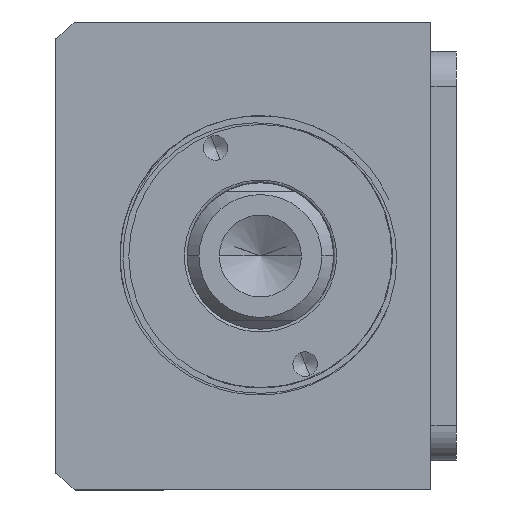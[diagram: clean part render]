
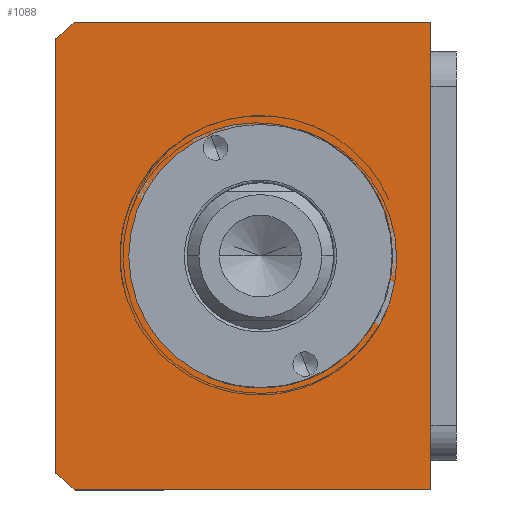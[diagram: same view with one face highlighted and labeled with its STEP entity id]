
A CAD part, front view. The second image highlights one B-rep face of the part: STEP entity #1088.
In plain terms, the highlighted planar face has unit normal (0, -1, 0) as drawn and (0, 0, 1) by its records, which use the part's own axes.
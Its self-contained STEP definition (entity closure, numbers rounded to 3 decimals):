
#100 = ORIENTED_EDGE ( 'NONE', *, *, #1274, .T. ) ;
#149 = ORIENTED_EDGE ( 'NONE', *, *, #7560, .T. ) ;
#208 = FACE_OUTER_BOUND ( 'NONE', #1423, .T. ) ;
#254 = ORIENTED_EDGE ( 'NONE', *, *, #5810, .F. ) ;
#356 = CIRCLE ( 'NONE', #5731, 51. ) ;
#456 = LINE ( 'NONE', #8473, #2397 ) ;
#470 = VERTEX_POINT ( 'NONE', #8999 ) ;
#863 = EDGE_CURVE ( 'NONE', #3849, #7347, #8869, .T. ) ;
#1031 = ORIENTED_EDGE ( 'NONE', *, *, #6985, .T. ) ;
#1088 = ADVANCED_FACE ( 'NONE', ( #6266, #208 ), #5209, .T. ) ;
#1274 = EDGE_CURVE ( 'NONE', #8259, #3849, #1374, .T. ) ;
#1374 = LINE ( 'NONE', #3772, #9920 ) ;
#1423 = EDGE_LOOP ( 'NONE', ( #149, #4144, #3433, #1031, #100, #4323 ) ) ;
#1499 = CARTESIAN_POINT ( 'NONE',  ( 0., 3., 155. ) ) ;
#1762 = CARTESIAN_POINT ( 'NONE',  ( -40., 32., 155. ) ) ;
#2235 = AXIS2_PLACEMENT_3D ( 'NONE', #4149, #2437, #9247 ) ;
#2266 = CARTESIAN_POINT ( 'NONE',  ( -22.5, 3., 155. ) ) ;
#2336 = DIRECTION ( 'NONE',  ( 1., 0., 0. ) ) ;
#2397 = VECTOR ( 'NONE', #7663, 1000. ) ;
#2437 = DIRECTION ( 'NONE',  ( 0., 0., 1. ) ) ;
#2564 = CARTESIAN_POINT ( 'NONE',  ( 0., 3., 155. ) ) ;
#2960 = AXIS2_PLACEMENT_3D ( 'NONE', #4860, #10668, #5698 ) ;
#3376 = DIRECTION ( 'NONE',  ( 1., 0., 0. ) ) ;
#3433 = ORIENTED_EDGE ( 'NONE', *, *, #10010, .T. ) ;
#3611 = CARTESIAN_POINT ( 'NONE',  ( -40., 32., 155. ) ) ;
#3717 = ORIENTED_EDGE ( 'NONE', *, *, #7791, .F. ) ;
#3772 = CARTESIAN_POINT ( 'NONE',  ( 40., 32., 155. ) ) ;
#3849 = VERTEX_POINT ( 'NONE', #9558 ) ;
#3871 = CARTESIAN_POINT ( 'NONE',  ( 0., 3., 155. ) ) ;
#4144 = ORIENTED_EDGE ( 'NONE', *, *, #7980, .T. ) ;
#4149 = CARTESIAN_POINT ( 'NONE',  ( 0., 0., 155. ) ) ;
#4323 = ORIENTED_EDGE ( 'NONE', *, *, #863, .T. ) ;
#4364 = DIRECTION ( 'NONE',  ( 0., 1., 0. ) ) ;
#4692 = DIRECTION ( 'NONE',  ( 1., 0., 0. ) ) ;
#4860 = CARTESIAN_POINT ( 'NONE',  ( 0., 3., 155. ) ) ;
#4890 = CARTESIAN_POINT ( 'NONE',  ( -40., -28.639, 155. ) ) ;
#5044 = AXIS2_PLACEMENT_3D ( 'NONE', #1499, #7278, #2336 ) ;
#5209 = PLANE ( 'NONE',  #2235 ) ;
#5328 = EDGE_LOOP ( 'NONE', ( #254, #3717 ) ) ;
#5698 = DIRECTION ( 'NONE',  ( 1., 0., 0. ) ) ;
#5731 = AXIS2_PLACEMENT_3D ( 'NONE', #3871, #9686, #4692 ) ;
#5759 = VERTEX_POINT ( 'NONE', #4890 ) ;
#5810 = EDGE_CURVE ( 'NONE', #470, #9672, #8090, .T. ) ;
#6266 = FACE_BOUND ( 'NONE', #5328, .T. ) ;
#6298 = VECTOR ( 'NONE', #9421, 1000. ) ;
#6658 = VECTOR ( 'NONE', #7291, 1000. ) ;
#6690 = CIRCLE ( 'NONE', #2960, 22.5 ) ;
#6985 = EDGE_CURVE ( 'NONE', #9433, #8259, #9895, .T. ) ;
#7278 = DIRECTION ( 'NONE',  ( 0., 0., 1. ) ) ;
#7291 = DIRECTION ( 'NONE',  ( -1., 0., 0. ) ) ;
#7347 = VERTEX_POINT ( 'NONE', #1762 ) ;
#7560 = EDGE_CURVE ( 'NONE', #7347, #5759, #10454, .T. ) ;
#7581 = CARTESIAN_POINT ( 'NONE',  ( -40., 32., 155. ) ) ;
#7663 = DIRECTION ( 'NONE',  ( 1., 0., 0. ) ) ;
#7791 = EDGE_CURVE ( 'NONE', #9672, #470, #6690, .T. ) ;
#7980 = EDGE_CURVE ( 'NONE', #5759, #8784, #356, .T. ) ;
#8090 = CIRCLE ( 'NONE', #8680, 22.5 ) ;
#8115 = CARTESIAN_POINT ( 'NONE',  ( -37.094, -32., 155. ) ) ;
#8259 = VERTEX_POINT ( 'NONE', #8507 ) ;
#8349 = DIRECTION ( 'NONE',  ( 0., 0., 1. ) ) ;
#8473 = CARTESIAN_POINT ( 'NONE',  ( -40., -32., 155. ) ) ;
#8507 = CARTESIAN_POINT ( 'NONE',  ( 40., -28.639, 155. ) ) ;
#8680 = AXIS2_PLACEMENT_3D ( 'NONE', #2564, #8349, #3376 ) ;
#8784 = VERTEX_POINT ( 'NONE', #8115 ) ;
#8869 = LINE ( 'NONE', #7581, #6658 ) ;
#8999 = CARTESIAN_POINT ( 'NONE',  ( 22.5, 3., 155. ) ) ;
#9055 = CARTESIAN_POINT ( 'NONE',  ( 37.094, -32., 155. ) ) ;
#9247 = DIRECTION ( 'NONE',  ( 1., 0., 0. ) ) ;
#9421 = DIRECTION ( 'NONE',  ( 0., -1., 0. ) ) ;
#9433 = VERTEX_POINT ( 'NONE', #9055 ) ;
#9558 = CARTESIAN_POINT ( 'NONE',  ( 40., 32., 155. ) ) ;
#9672 = VERTEX_POINT ( 'NONE', #2266 ) ;
#9686 = DIRECTION ( 'NONE',  ( 0., 0., 1. ) ) ;
#9895 = CIRCLE ( 'NONE', #5044, 51. ) ;
#9920 = VECTOR ( 'NONE', #4364, 1000. ) ;
#10010 = EDGE_CURVE ( 'NONE', #8784, #9433, #456, .T. ) ;
#10454 = LINE ( 'NONE', #3611, #6298 ) ;
#10668 = DIRECTION ( 'NONE',  ( 0., 0., 1. ) ) ;
